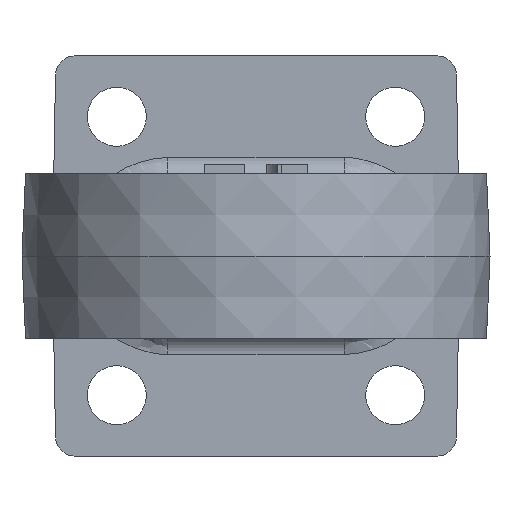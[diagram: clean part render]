
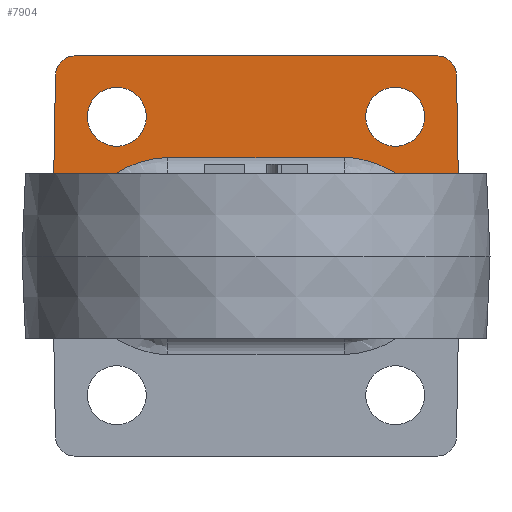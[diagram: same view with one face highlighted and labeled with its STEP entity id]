
A CAD part, front view. The second image highlights one B-rep face of the part: STEP entity #7904.
In plain terms, the highlighted planar face has unit normal (0, -1, 0).
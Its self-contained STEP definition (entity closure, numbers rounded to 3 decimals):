
#3485=CARTESIAN_POINT('',(-27.552,95.0,30.5));
#3486=VERTEX_POINT('',#3485);
#3493=CARTESIAN_POINT('',(27.552,95.0,30.5));
#3494=VERTEX_POINT('',#3493);
#3495=CARTESIAN_POINT('',(27.552,95.0,30.5));
#3496=DIRECTION('',(-1.0,0.0,0.0));
#3497=VECTOR('',#3496,55.104);
#3498=LINE('',#3495,#3497);
#3499=EDGE_CURVE('',#3494,#3486,#3498,.T.);
#7074=CARTESIAN_POINT('',(-30.,95.0,4.));
#7075=VERTEX_POINT('',#7074);
#7085=CARTESIAN_POINT('',(-30.,95.0,0.0));
#7086=VERTEX_POINT('',#7085);
#7087=CARTESIAN_POINT('',(-30.,95.0,4.));
#7088=DIRECTION('',(0.0,0.0,-1.0));
#7089=VECTOR('',#7088,4.);
#7090=LINE('',#7087,#7089);
#7091=EDGE_CURVE('',#7075,#7086,#7090,.T.);
#7590=CARTESIAN_POINT('',(30.0,95.0,4.));
#7591=VERTEX_POINT('',#7590);
#7602=CARTESIAN_POINT('',(30.0,95.0,0.0));
#7603=VERTEX_POINT('',#7602);
#7610=CARTESIAN_POINT('',(30.0,95.0,0.0));
#7611=DIRECTION('',(0.0,0.0,1.0));
#7612=VECTOR('',#7611,4.);
#7613=LINE('',#7610,#7612);
#7614=EDGE_CURVE('',#7603,#7591,#7613,.T.);
#7769=CARTESIAN_POINT('',(-30.551,95.0,27.552));
#7770=VERTEX_POINT('',#7769);
#7777=CARTESIAN_POINT('',(-27.552,95.0,27.5));
#7778=DIRECTION('',(0.0,1.0,0.0));
#7779=DIRECTION('',(-0.701,0.0,0.713));
#7780=AXIS2_PLACEMENT_3D('',#7777,#7778,#7779);
#7781=CIRCLE('',#7780,3.);
#7782=EDGE_CURVE('',#7770,#3486,#7781,.T.);
#7788=CARTESIAN_POINT('',(0.0,95.0,0.));
#7789=DIRECTION('',(0.0,1.0,0.0));
#7790=DIRECTION('',(0.0,0.0,1.0));
#7791=AXIS2_PLACEMENT_3D('',#7788,#7789,#7790);
#7792=PLANE('',#7791);
#7793=CARTESIAN_POINT('',(13.417,95.0,15.));
#7794=VERTEX_POINT('',#7793);
#7795=CARTESIAN_POINT('',(30.0,95.0,4.));
#7796=CARTESIAN_POINT('',(29.997,95.0,4.004));
#7797=CARTESIAN_POINT('',(29.994,95.,4.007));
#7798=CARTESIAN_POINT('',(29.991,95.,4.011));
#7799=CARTESIAN_POINT('',(29.381,95.,4.776));
#7800=CARTESIAN_POINT('',(28.153,95.,6.315));
#7801=CARTESIAN_POINT('',(26.541,95.,8.173));
#7802=CARTESIAN_POINT('',(25.168,95.,9.573));
#7803=CARTESIAN_POINT('',(24.088,95.,10.568));
#7804=CARTESIAN_POINT('',(22.952,95.,11.499));
#7805=CARTESIAN_POINT('',(21.345,95.,12.644));
#7806=CARTESIAN_POINT('',(19.611,95.0,13.6));
#7807=CARTESIAN_POINT('',(17.782,95.,14.303));
#7808=CARTESIAN_POINT('',(15.877,95.,14.832));
#7809=CARTESIAN_POINT('',(14.396,95.0,15.));
#7810=CARTESIAN_POINT('',(13.417,95.0,15.));
#7811=B_SPLINE_CURVE_WITH_KNOTS('',3,(#7795,#7796,#7797,#7798,#7799,#7800,#7801,#7802,#7803,#7804,#7805,#7806,#7807,#7808,#7809,#7810),.UNSPECIFIED.,.F.,.U.,(4,3,1,1,1,1,1,1,1,1,1,4),(-2.058,-2.057,-1.763,-1.469,-1.322,-1.175,-1.028,-0.881,-0.588,-0.441,-0.294,0.0),.UNSPECIFIED.);
#7812=EDGE_CURVE('',#7591,#7794,#7811,.T.);
#7813=ORIENTED_EDGE('',*,*,#7812,.F.);
#7814=ORIENTED_EDGE('',*,*,#7614,.F.);
#7815=CARTESIAN_POINT('',(31.032,95.0,0.));
#7816=VERTEX_POINT('',#7815);
#7817=CARTESIAN_POINT('',(31.032,95.0,0.));
#7818=DIRECTION('',(-1.0,0.0,0.0));
#7819=VECTOR('',#7818,1.032);
#7820=LINE('',#7817,#7819);
#7821=EDGE_CURVE('',#7816,#7603,#7820,.T.);
#7822=ORIENTED_EDGE('',*,*,#7821,.F.);
#7823=CARTESIAN_POINT('',(30.551,95.0,27.552));
#7824=VERTEX_POINT('',#7823);
#7825=CARTESIAN_POINT('',(31.032,95.0,0.));
#7826=DIRECTION('',(-0.017,0.0,1.));
#7827=VECTOR('',#7826,27.557);
#7828=LINE('',#7825,#7827);
#7829=EDGE_CURVE('',#7816,#7824,#7828,.T.);
#7830=ORIENTED_EDGE('',*,*,#7829,.T.);
#7831=CARTESIAN_POINT('',(27.552,95.0,27.5));
#7832=DIRECTION('',(0.0,1.0,0.0));
#7833=DIRECTION('',(0.701,0.0,0.713));
#7834=AXIS2_PLACEMENT_3D('',#7831,#7832,#7833);
#7835=CIRCLE('',#7834,3.);
#7836=EDGE_CURVE('',#3494,#7824,#7835,.T.);
#7837=ORIENTED_EDGE('',*,*,#7836,.F.);
#7838=ORIENTED_EDGE('',*,*,#3499,.T.);
#7839=ORIENTED_EDGE('',*,*,#7782,.F.);
#7840=CARTESIAN_POINT('',(-31.032,95.0,0.0));
#7841=VERTEX_POINT('',#7840);
#7842=CARTESIAN_POINT('',(-30.551,95.0,27.552));
#7843=DIRECTION('',(-0.017,0.0,-1.));
#7844=VECTOR('',#7843,27.557);
#7845=LINE('',#7842,#7844);
#7846=EDGE_CURVE('',#7770,#7841,#7845,.T.);
#7847=ORIENTED_EDGE('',*,*,#7846,.T.);
#7848=CARTESIAN_POINT('',(-30.,95.0,0.0));
#7849=DIRECTION('',(-1.0,0.0,0.0));
#7850=VECTOR('',#7849,1.032);
#7851=LINE('',#7848,#7850);
#7852=EDGE_CURVE('',#7086,#7841,#7851,.T.);
#7853=ORIENTED_EDGE('',*,*,#7852,.F.);
#7854=ORIENTED_EDGE('',*,*,#7091,.F.);
#7855=CARTESIAN_POINT('',(-13.417,95.0,15.));
#7856=VERTEX_POINT('',#7855);
#7857=CARTESIAN_POINT('',(-13.417,95.0,15.));
#7858=CARTESIAN_POINT('',(-14.102,95.0,15.));
#7859=CARTESIAN_POINT('',(-15.481,95.,14.891));
#7860=CARTESIAN_POINT('',(-17.51,95.,14.415));
#7861=CARTESIAN_POINT('',(-19.43,95.,13.674));
#7862=CARTESIAN_POINT('',(-21.257,95.,12.692));
#7863=CARTESIAN_POINT('',(-23.531,95.,11.118));
#7864=CARTESIAN_POINT('',(-25.54,95.,9.255));
#7865=CARTESIAN_POINT('',(-27.385,95.,7.211));
#7866=CARTESIAN_POINT('',(-28.706,95.,5.622));
#7867=CARTESIAN_POINT('',(-29.564,95.,4.547));
#7868=CARTESIAN_POINT('',(-29.994,95.,4.007));
#7869=CARTESIAN_POINT('',(-29.997,95.0,4.004));
#7870=CARTESIAN_POINT('',(-30.,95.0,4.));
#7871=B_SPLINE_CURVE_WITH_KNOTS('',3,(#7857,#7858,#7859,#7860,#7861,#7862,#7863,#7864,#7865,#7866,#7867,#7868,#7869,#7870),.UNSPECIFIED.,.F.,.U.,(4,1,1,1,1,1,1,1,1,2,4),(-2.057,-1.851,-1.645,-1.44,-1.234,-1.028,-0.617,-0.411,-0.206,0.0,0.001),.UNSPECIFIED.);
#7872=EDGE_CURVE('',#7856,#7075,#7871,.T.);
#7873=ORIENTED_EDGE('',*,*,#7872,.F.);
#7874=CARTESIAN_POINT('',(13.417,95.0,15.));
#7875=DIRECTION('',(-1.0,0.0,0.0));
#7876=VECTOR('',#7875,26.834);
#7877=LINE('',#7874,#7876);
#7878=EDGE_CURVE('',#7794,#7856,#7877,.T.);
#7879=ORIENTED_EDGE('',*,*,#7878,.F.);
#7880=EDGE_LOOP('',(#7813,#7814,#7822,#7830,#7837,#7838,#7839,#7847,#7853,#7854,#7873,#7879));
#7881=FACE_OUTER_BOUND('',#7880,.T.);
#7882=CARTESIAN_POINT('',(21.213,95.0,16.713));
#7883=VERTEX_POINT('',#7882);
#7884=CARTESIAN_POINT('',(21.213,95.0,21.213));
#7885=DIRECTION('',(0.0,1.0,0.0));
#7886=DIRECTION('',(0.0,0.0,1.0));
#7887=AXIS2_PLACEMENT_3D('',#7884,#7885,#7886);
#7888=CIRCLE('',#7887,4.5);
#7889=EDGE_CURVE('',#7883,#7883,#7888,.T.);
#7890=ORIENTED_EDGE('',*,*,#7889,.T.);
#7891=EDGE_LOOP('',(#7890));
#7892=FACE_BOUND('',#7891,.T.);
#7893=CARTESIAN_POINT('',(-16.713,95.0,21.213));
#7894=VERTEX_POINT('',#7893);
#7895=CARTESIAN_POINT('',(-21.213,95.0,21.213));
#7896=DIRECTION('',(0.0,1.0,0.0));
#7897=DIRECTION('',(-1.0,0.0,0.0));
#7898=AXIS2_PLACEMENT_3D('',#7895,#7896,#7897);
#7899=CIRCLE('',#7898,4.5);
#7900=EDGE_CURVE('',#7894,#7894,#7899,.T.);
#7901=ORIENTED_EDGE('',*,*,#7900,.T.);
#7902=EDGE_LOOP('',(#7901));
#7903=FACE_BOUND('',#7902,.T.);
#7904=ADVANCED_FACE('',(#7881,#7892,#7903),#7792,.F.);
